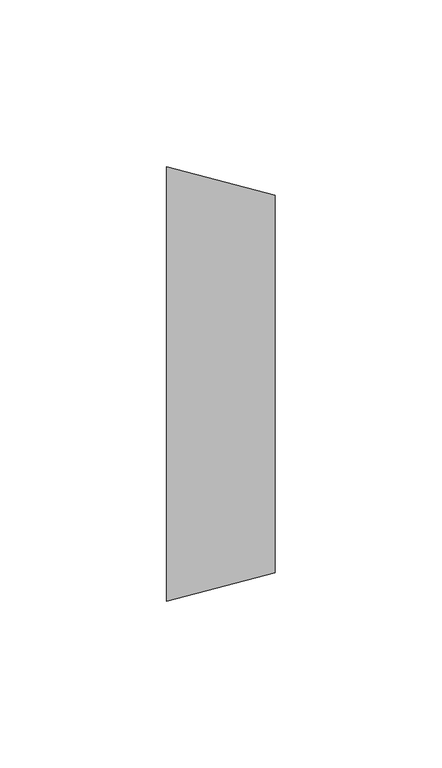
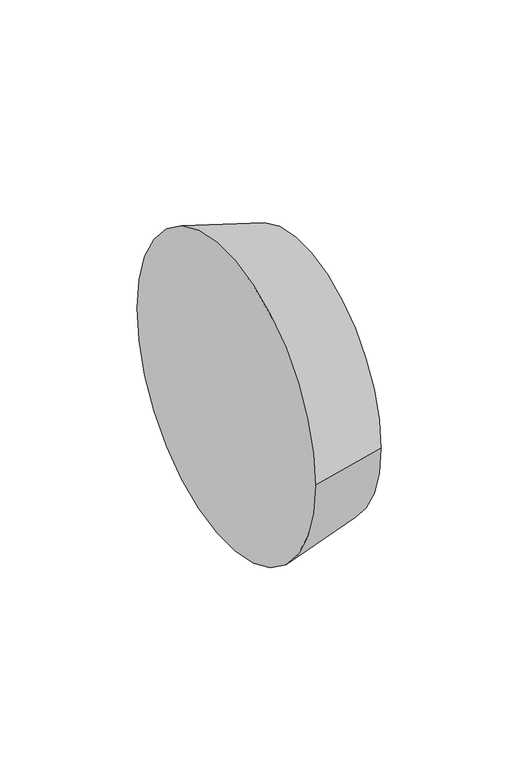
"""IFC4 building model written with IfcOpenShell, lengths in millimetres: pipe fitting geometry, M_Transición - Genérica : Estándar."""

from ifc_helpers import new_model, si_unit, frame, origin, place, context, project, spatial, polyline, circle_curve, source, transform, mapped, element, save
from ifc_brep_helpers import plane_surface, revolved_surface, advanced_brep


def pipe_fitting_70d1819a(model_context):
    return source(origin(), model_context, "Body", "AdvancedBrep", [
        advanced_brep(
        [(32.54375, -56.5875, 0.0), (32.54375, 56.5875, 0.0), (0.0, -65.0875, 0.0), (0.0, 65.0875, 0.0)],
        [
            (0, 1, circle_curve(frame((32.54375, 0.0, 0.0), z_axis=(1.0, 0.0, 0.0), x_axis=(0.0, -1.0, 0.0)), 56.5875)),
            (1, 0, circle_curve(frame((32.54375, 0.0, 0.0), z_axis=(1.0, 0.0, 0.0), x_axis=(0.0, 1.0, 0.0)), 56.5875)),
            (2, 3, circle_curve(frame((0.0, 0.0, 0.0), z_axis=(-1.0, 0.0, 0.0), x_axis=(0.0, 1.0, 0.0)), 65.0875)),
            (3, 2, circle_curve(frame((0.0, 0.0, 0.0), z_axis=(-1.0, 0.0, 0.0), x_axis=(0.0, -1.0, 0.0)), 65.0875)),
            (3, 1),
            (0, 2),
        ],
        [
            plane_surface(frame((32.54375, 0.0, 0.0), z_axis=(1.0, 0.0, 0.0), x_axis=(0.0, 0.0, -1.0))),
            plane_surface(frame((0.0, 0.0, 0.0), z_axis=(-1.0, 0.0, 0.0), x_axis=(0.0, 0.0, -1.0))),
            revolved_surface(polyline([(32.54375000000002, -56.58750000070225, 0.0), (0.0, -65.0875, 0.0)]), (249.1989798, 0.0, 0.0), (-1.0, 0.0, 0.0)),
            revolved_surface(polyline([(32.54375000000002, 56.58750000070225, 0.0), (0.0, 65.0875, 0.0)]), (249.1989798, 0.0, 0.0), (-1.0, 0.0, 0.0)),
        ],
        [
            (0, [[1, 2]]),
            (1, [[3, 4]]),
            (2, [[-4, 5, -1, 6]]),
            (3, [[-3, -6, -2, -5]]),
        ],
    ),
    ])


if __name__ == "__main__":
    model = new_model("IFC4")
    model_context = context("Model", 3, world=origin())
    ifc_project = project(units=[si_unit("LENGTHUNIT", "METRE", prefix="MILLI")], contexts=[model_context])
    site = spatial("IfcSite", under=ifc_project)
    building = spatial("IfcBuilding", under=site)
    placement = place(None, origin())
    pipe_fitting_shape = pipe_fitting_70d1819a(model_context)
    element("IfcPipeFitting", 1, ObjectType="M_Transición - Genérica : Estándar", at=placement, inside=building, context=model_context, shape_type="MappedRepresentation", body=[
        mapped(pipe_fitting_shape, transform((0.0, 0.0, 0.0), x_axis=(1.0, 0.0, 0.0), y_axis=(0.0, 1.0, 0.0), z_axis=(0.0, 0.0, 1.0))),
    ])
    save(model, "model.ifc")
